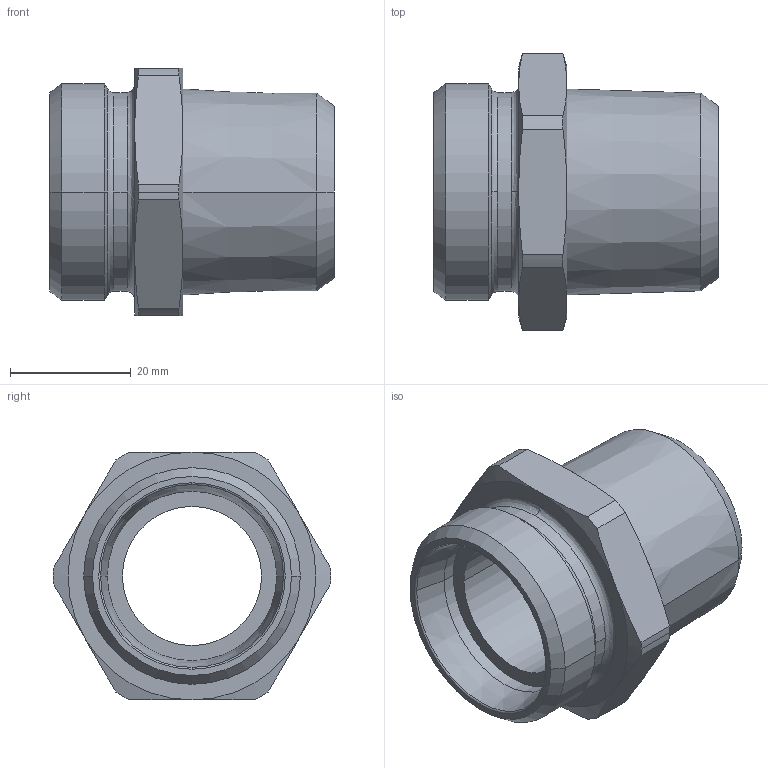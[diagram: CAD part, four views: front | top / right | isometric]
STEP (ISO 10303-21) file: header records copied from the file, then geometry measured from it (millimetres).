
FILE_DESCRIPTION((''),'2;1');
FILE_NAME('101811.stp','2007-10-30T16:15:54',(''),(''),'AutoCAD STEP 2000i','AutoCAD 2000i',', , ');
FILE_SCHEMA(('CONFIG_CONTROL_DESIGN'));
Length unit declared in the file: millimetre
Products named in the file (2): 101811.0; CHIAVE SMUSSATA#0
Assembly tree (1 placements, depth 2):
  101811.0
    CHIAVE SMUSSATA#0
Bounding box: 47 x 45.9 x 41 mm (x, y, z)
Volume: 24776.1 mm3; surface area: 10466.4 mm2
Topology: 1 solids, 1 shells, 59 faces, 143 edges, 89 vertices
Faces by surface type: cone 24, cylinder 16, plane 11, bspline 6, torus 2
Entity records: 2079 total; most frequent: CARTESIAN_POINT 605, DIRECTION 314, ORIENTED_EDGE 286, EDGE_CURVE 143, AXIS2_PLACEMENT_3D 140, VERTEX_POINT 89, CIRCLE 85, EDGE_LOOP 64
